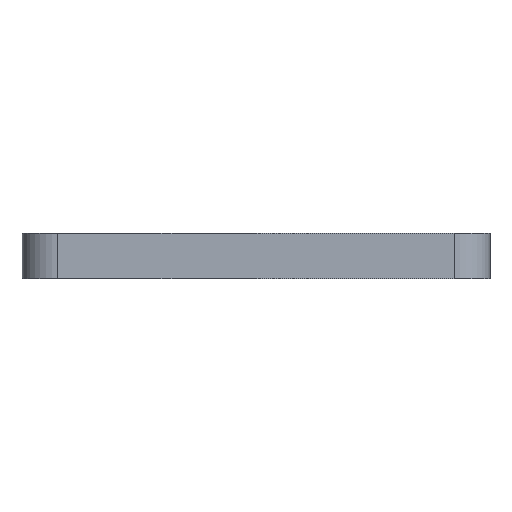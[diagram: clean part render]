
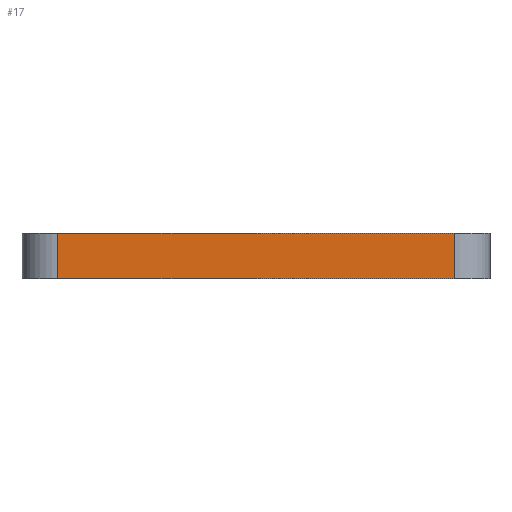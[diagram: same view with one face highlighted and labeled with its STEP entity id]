
A CAD part, left-side view. The second image highlights one B-rep face of the part: STEP entity #17.
In plain terms, the highlighted planar face has unit normal (-1, 0, 0).
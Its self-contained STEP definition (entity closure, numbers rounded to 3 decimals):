
#17 = ADVANCED_FACE('',(#18),#32,.F.);
#18 = FACE_BOUND('',#19,.F.);
#19 = EDGE_LOOP('',(#20,#55,#83,#111));
#20 = ORIENTED_EDGE('',*,*,#21,.F.);
#21 = EDGE_CURVE('',#22,#24,#26,.T.);
#22 = VERTEX_POINT('',#23);
#23 = CARTESIAN_POINT('',(-11.71,6.77,0.5));
#24 = VERTEX_POINT('',#25);
#25 = CARTESIAN_POINT('',(-11.71,11.17,0.5));
#26 = SURFACE_CURVE('',#27,(#31,#43),.PCURVE_S1.);
#27 = LINE('',#28,#29);
#28 = CARTESIAN_POINT('',(-11.71,6.37,0.5));
#29 = VECTOR('',#30,1.);
#30 = DIRECTION('',(0.,1.,0.));
#31 = PCURVE('',#32,#37);
#32 = PLANE('',#33);
#33 = AXIS2_PLACEMENT_3D('',#34,#35,#36);
#34 = CARTESIAN_POINT('',(-11.71,6.37,0.));
#35 = DIRECTION('',(1.,0.,0.));
#36 = DIRECTION('',(0.,0.,1.));
#37 = DEFINITIONAL_REPRESENTATION('',(#38),#42);
#38 = LINE('',#39,#40);
#39 = CARTESIAN_POINT('',(0.5,0.));
#40 = VECTOR('',#41,1.);
#41 = DIRECTION('',(0.,-1.));
#42 = ( GEOMETRIC_REPRESENTATION_CONTEXT(2) 
PARAMETRIC_REPRESENTATION_CONTEXT() REPRESENTATION_CONTEXT('2D SPACE',''
  ) );
#43 = PCURVE('',#44,#49);
#44 = PLANE('',#45);
#45 = AXIS2_PLACEMENT_3D('',#46,#47,#48);
#46 = CARTESIAN_POINT('',(-11.71,6.37,0.5));
#47 = DIRECTION('',(0.,0.,1.));
#48 = DIRECTION('',(1.,0.,0.));
#49 = DEFINITIONAL_REPRESENTATION('',(#50),#54);
#50 = LINE('',#51,#52);
#51 = CARTESIAN_POINT('',(0.,0.));
#52 = VECTOR('',#53,1.);
#53 = DIRECTION('',(0.,1.));
#54 = ( GEOMETRIC_REPRESENTATION_CONTEXT(2) 
PARAMETRIC_REPRESENTATION_CONTEXT() REPRESENTATION_CONTEXT('2D SPACE',''
  ) );
#55 = ORIENTED_EDGE('',*,*,#56,.F.);
#56 = EDGE_CURVE('',#57,#22,#59,.T.);
#57 = VERTEX_POINT('',#58);
#58 = CARTESIAN_POINT('',(-11.71,6.77,0.));
#59 = SURFACE_CURVE('',#60,(#64,#71),.PCURVE_S1.);
#60 = LINE('',#61,#62);
#61 = CARTESIAN_POINT('',(-11.71,6.77,0.));
#62 = VECTOR('',#63,1.);
#63 = DIRECTION('',(0.,0.,1.));
#64 = PCURVE('',#32,#65);
#65 = DEFINITIONAL_REPRESENTATION('',(#66),#70);
#66 = LINE('',#67,#68);
#67 = CARTESIAN_POINT('',(0.,-0.4));
#68 = VECTOR('',#69,1.);
#69 = DIRECTION('',(1.,0.));
#70 = ( GEOMETRIC_REPRESENTATION_CONTEXT(2) 
PARAMETRIC_REPRESENTATION_CONTEXT() REPRESENTATION_CONTEXT('2D SPACE',''
  ) );
#71 = PCURVE('',#72,#77);
#72 = CYLINDRICAL_SURFACE('',#73,0.4);
#73 = AXIS2_PLACEMENT_3D('',#74,#75,#76);
#74 = CARTESIAN_POINT('',(-11.31,6.77,0.));
#75 = DIRECTION('',(0.,0.,1.));
#76 = DIRECTION('',(-1.,-0.,0.));
#77 = DEFINITIONAL_REPRESENTATION('',(#78),#82);
#78 = LINE('',#79,#80);
#79 = CARTESIAN_POINT('',(0.,0.));
#80 = VECTOR('',#81,1.);
#81 = DIRECTION('',(0.,1.));
#82 = ( GEOMETRIC_REPRESENTATION_CONTEXT(2) 
PARAMETRIC_REPRESENTATION_CONTEXT() REPRESENTATION_CONTEXT('2D SPACE',''
  ) );
#83 = ORIENTED_EDGE('',*,*,#84,.T.);
#84 = EDGE_CURVE('',#57,#85,#87,.T.);
#85 = VERTEX_POINT('',#86);
#86 = CARTESIAN_POINT('',(-11.71,11.17,0.));
#87 = SURFACE_CURVE('',#88,(#92,#99),.PCURVE_S1.);
#88 = LINE('',#89,#90);
#89 = CARTESIAN_POINT('',(-11.71,6.37,0.));
#90 = VECTOR('',#91,1.);
#91 = DIRECTION('',(0.,1.,0.));
#92 = PCURVE('',#32,#93);
#93 = DEFINITIONAL_REPRESENTATION('',(#94),#98);
#94 = LINE('',#95,#96);
#95 = CARTESIAN_POINT('',(0.,0.));
#96 = VECTOR('',#97,1.);
#97 = DIRECTION('',(0.,-1.));
#98 = ( GEOMETRIC_REPRESENTATION_CONTEXT(2) 
PARAMETRIC_REPRESENTATION_CONTEXT() REPRESENTATION_CONTEXT('2D SPACE',''
  ) );
#99 = PCURVE('',#100,#105);
#100 = PLANE('',#101);
#101 = AXIS2_PLACEMENT_3D('',#102,#103,#104);
#102 = CARTESIAN_POINT('',(-11.71,6.37,0.));
#103 = DIRECTION('',(0.,0.,1.));
#104 = DIRECTION('',(1.,0.,0.));
#105 = DEFINITIONAL_REPRESENTATION('',(#106),#110);
#106 = LINE('',#107,#108);
#107 = CARTESIAN_POINT('',(0.,0.));
#108 = VECTOR('',#109,1.);
#109 = DIRECTION('',(0.,1.));
#110 = ( GEOMETRIC_REPRESENTATION_CONTEXT(2) 
PARAMETRIC_REPRESENTATION_CONTEXT() REPRESENTATION_CONTEXT('2D SPACE',''
  ) );
#111 = ORIENTED_EDGE('',*,*,#112,.T.);
#112 = EDGE_CURVE('',#85,#24,#113,.T.);
#113 = SURFACE_CURVE('',#114,(#118,#125),.PCURVE_S1.);
#114 = LINE('',#115,#116);
#115 = CARTESIAN_POINT('',(-11.71,11.17,0.));
#116 = VECTOR('',#117,1.);
#117 = DIRECTION('',(0.,0.,1.));
#118 = PCURVE('',#32,#119);
#119 = DEFINITIONAL_REPRESENTATION('',(#120),#124);
#120 = LINE('',#121,#122);
#121 = CARTESIAN_POINT('',(0.,-4.8));
#122 = VECTOR('',#123,1.);
#123 = DIRECTION('',(1.,0.));
#124 = ( GEOMETRIC_REPRESENTATION_CONTEXT(2) 
PARAMETRIC_REPRESENTATION_CONTEXT() REPRESENTATION_CONTEXT('2D SPACE',''
  ) );
#125 = PCURVE('',#126,#131);
#126 = CYLINDRICAL_SURFACE('',#127,0.4);
#127 = AXIS2_PLACEMENT_3D('',#128,#129,#130);
#128 = CARTESIAN_POINT('',(-11.31,11.17,0.));
#129 = DIRECTION('',(0.,0.,1.));
#130 = DIRECTION('',(-1.,-0.,0.));
#131 = DEFINITIONAL_REPRESENTATION('',(#132),#136);
#132 = LINE('',#133,#134);
#133 = CARTESIAN_POINT('',(-0.,0.));
#134 = VECTOR('',#135,1.);
#135 = DIRECTION('',(-0.,1.));
#136 = ( GEOMETRIC_REPRESENTATION_CONTEXT(2) 
PARAMETRIC_REPRESENTATION_CONTEXT() REPRESENTATION_CONTEXT('2D SPACE',''
  ) );
